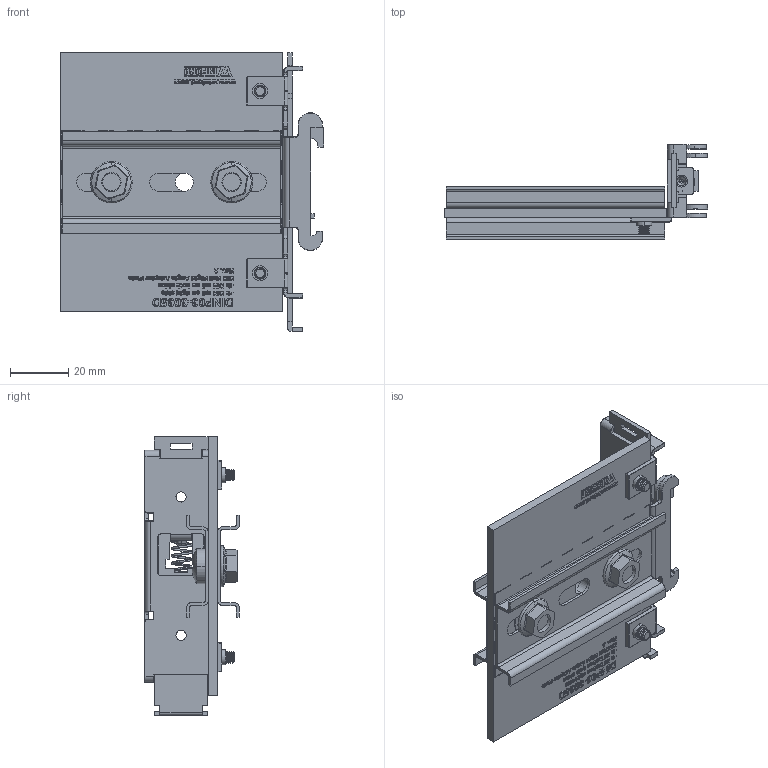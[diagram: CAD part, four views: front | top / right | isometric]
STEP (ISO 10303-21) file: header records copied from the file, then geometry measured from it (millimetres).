
FILE_DESCRIPTION (( 'STEP AP214' ), '1' );
FILE_NAME ('dinp03-3035d-2_rev_a.step', '2023-11-17T21:35:00', ( '' ), ( '' ), 'SwSTEP 2.0', 'SolidWorks 2018', '' );
FILE_SCHEMA (( 'AUTOMOTIVE_DESIGN' ));
Length unit declared in the file: inch
Products named in the file (7): M6 x 1.0 Flange nut; M6 Panhead Machine screw 10mm Length; Right angle steel din clip_tabs onleft; dinp03-3035d_plate; M4 8mm FH_M4 8mm FH; dinp03-3035d-2_rev_a; 7.5 cm Din Rail
Assembly tree (10 placements, depth 2):
  dinp03-3035d-2_rev_a
    dinp03-3035d_plate
    Right angle steel din clip_tabs onleft
    M4 8mm FH_M4 8mm FH  x2
    7.5 cm Din Rail  x2
    M6 Panhead Machine screw 10mm Length  x2
    M6 x 1.0 Flange nut  x2
Bounding box: 90.28 x 32.5 x 95.65 mm (x, y, z)
Volume: 36233.5 mm3; surface area: 41618.5 mm2
Topology: 12 solids, 12 shells, 2783 faces, 7397 edges, 4826 vertices
Faces by surface type: plane 1584, bspline 660, cylinder 362, torus 108, cone 54, sphere 15
Entity records: 148379 total; most frequent: CARTESIAN_POINT 54511, ORIENTED_EDGE 13960, DIRECTION 10218, EDGE_CURVE 6980, VECTOR 4820, LINE 4820, VERTEX_POINT 4566, EDGE_LOOP 2880
